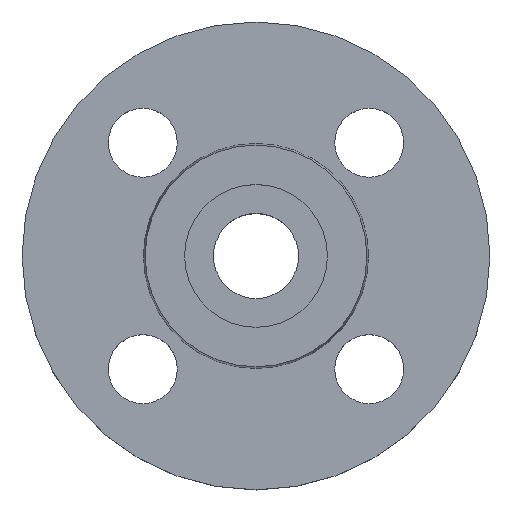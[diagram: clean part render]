
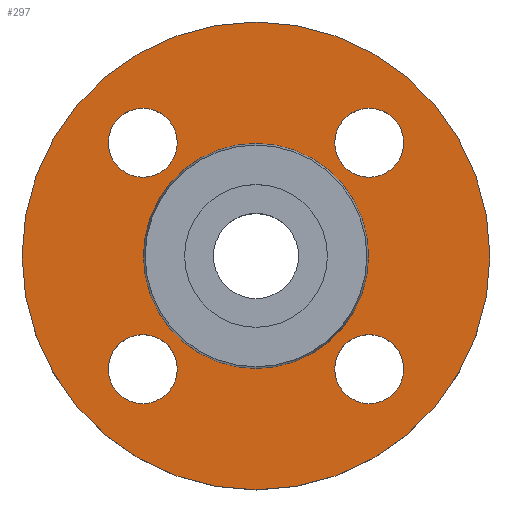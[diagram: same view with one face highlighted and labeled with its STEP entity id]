
A CAD part, top view. The second image highlights one B-rep face of the part: STEP entity #297.
In plain terms, the highlighted planar face has unit normal (0, 0, 1).
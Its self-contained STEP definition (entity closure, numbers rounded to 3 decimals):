
#10 = CIRCLE ( 'NONE', #16, 7. ) ;
#16 = AXIS2_PLACEMENT_3D ( 'NONE', #424, #425, #426 ) ;
#20 = EDGE_CURVE ( 'NONE', #636, #751, #619, .T. ) ;
#28 = CIRCLE ( 'NONE', #29, 7. ) ;
#29 = AXIS2_PLACEMENT_3D ( 'NONE', #448, #460, #461 ) ;
#30 = CIRCLE ( 'NONE', #208, 47.5 ) ;
#37 = CIRCLE ( 'NONE', #275, 22.853 ) ;
#40 = CIRCLE ( 'NONE', #334, 47.5 ) ;
#44 = CARTESIAN_POINT ( 'NONE',  ( -22.853, 0., -2. ) ) ;
#66 = AXIS2_PLACEMENT_3D ( 'NONE', #608, #612, #610 ) ;
#73 = CARTESIAN_POINT ( 'NONE',  ( 29.981, -22.981, -2. ) ) ;
#80 = AXIS2_PLACEMENT_3D ( 'NONE', #353, #605, #349 ) ;
#97 = CARTESIAN_POINT ( 'NONE',  ( -47.5, 0., -2. ) ) ;
#127 = CIRCLE ( 'NONE', #129, 7. ) ;
#129 = AXIS2_PLACEMENT_3D ( 'NONE', #377, #494, #291 ) ;
#140 = AXIS2_PLACEMENT_3D ( 'NONE', #292, #290, #289 ) ;
#149 = AXIS2_PLACEMENT_3D ( 'NONE', #515, #516, #518 ) ;
#153 = CARTESIAN_POINT ( 'NONE',  ( 15.981, -22.981, -2. ) ) ;
#165 = CARTESIAN_POINT ( 'NONE',  ( 15.981, 22.981, -2. ) ) ;
#170 = CIRCLE ( 'NONE', #140, 22.853 ) ;
#174 = DIRECTION ( 'NONE',  ( 1., 0., 0. ) ) ;
#175 = DIRECTION ( 'NONE',  ( 0., 0., -1. ) ) ;
#177 = CARTESIAN_POINT ( 'NONE',  ( -22.981, 22.981, -2. ) ) ;
#194 = CARTESIAN_POINT ( 'NONE',  ( -29.981, 22.981, -2. ) ) ;
#208 = AXIS2_PLACEMENT_3D ( 'NONE', #465, #467, #474 ) ;
#230 = EDGE_CURVE ( 'NONE', #866, #766, #10, .T. ) ;
#235 = CIRCLE ( 'NONE', #80, 7. ) ;
#249 = CIRCLE ( 'NONE', #253, 7. ) ;
#253 = AXIS2_PLACEMENT_3D ( 'NONE', #715, #411, #279 ) ;
#266 = EDGE_CURVE ( 'NONE', #648, #640, #28, .T. ) ;
#271 = EDGE_CURVE ( 'NONE', #855, #645, #30, .T. ) ;
#275 = AXIS2_PLACEMENT_3D ( 'NONE', #530, #531, #532 ) ;
#279 = DIRECTION ( 'NONE',  ( 1., 0., 0. ) ) ;
#286 = CARTESIAN_POINT ( 'NONE',  ( -15.981, -22.981, -2. ) ) ;
#289 = DIRECTION ( 'NONE',  ( -1., 0., 0. ) ) ;
#290 = DIRECTION ( 'NONE',  ( 0., 0., -1. ) ) ;
#291 = DIRECTION ( 'NONE',  ( 1., 0., 0. ) ) ;
#292 = CARTESIAN_POINT ( 'NONE',  ( 0., 0., -2. ) ) ;
#293 = CARTESIAN_POINT ( 'NONE',  ( 47.5, 0., -2. ) ) ;
#297 = ADVANCED_FACE ( 'NONE', ( #503, #883, #505, #506, #509, #510 ), #513, .T. ) ;
#298 = CARTESIAN_POINT ( 'NONE',  ( -29.981, -22.981, -2. ) ) ;
#299 = CARTESIAN_POINT ( 'NONE',  ( -15.981, 22.981, -2. ) ) ;
#301 = CARTESIAN_POINT ( 'NONE',  ( 29.981, 22.981, -2. ) ) ;
#302 = CARTESIAN_POINT ( 'NONE',  ( 22.853, 0., -2. ) ) ;
#309 = ORIENTED_EDGE ( 'NONE', *, *, #20, .T. ) ;
#319 = CIRCLE ( 'NONE', #66, 7. ) ;
#331 = EDGE_CURVE ( 'NONE', #894, #635, #37, .T. ) ;
#334 = AXIS2_PLACEMENT_3D ( 'NONE', #556, #557, #558 ) ;
#349 = DIRECTION ( 'NONE',  ( 1., 0., 0. ) ) ;
#353 = CARTESIAN_POINT ( 'NONE',  ( 22.981, 22.981, -2. ) ) ;
#377 = CARTESIAN_POINT ( 'NONE',  ( -22.981, -22.981, -2. ) ) ;
#384 = ORIENTED_EDGE ( 'NONE', *, *, #745, .T. ) ;
#394 = CIRCLE ( 'NONE', #401, 7. ) ;
#395 = EDGE_CURVE ( 'NONE', #645, #855, #40, .T. ) ;
#401 = AXIS2_PLACEMENT_3D ( 'NONE', #177, #175, #174 ) ;
#411 = DIRECTION ( 'NONE',  ( 0., 0., -1. ) ) ;
#414 = ORIENTED_EDGE ( 'NONE', *, *, #497, .T. ) ;
#424 = CARTESIAN_POINT ( 'NONE',  ( 22.981, -22.981, -2. ) ) ;
#425 = DIRECTION ( 'NONE',  ( 0., 0., -1. ) ) ;
#426 = DIRECTION ( 'NONE',  ( 1., 0., 0. ) ) ;
#448 = CARTESIAN_POINT ( 'NONE',  ( -22.981, -22.981, -2. ) ) ;
#460 = DIRECTION ( 'NONE',  ( 0., 0., -1. ) ) ;
#461 = DIRECTION ( 'NONE',  ( 1., 0., 0. ) ) ;
#465 = CARTESIAN_POINT ( 'NONE',  ( 0., 0., -2. ) ) ;
#467 = DIRECTION ( 'NONE',  ( 0., 0., -1. ) ) ;
#474 = DIRECTION ( 'NONE',  ( -1., 0., 0. ) ) ;
#494 = DIRECTION ( 'NONE',  ( 0., 0., -1. ) ) ;
#497 = EDGE_CURVE ( 'NONE', #639, #726, #319, .T. ) ;
#503 = FACE_BOUND ( 'NONE', #643, .T. ) ;
#505 = FACE_BOUND ( 'NONE', #713, .T. ) ;
#506 = FACE_BOUND ( 'NONE', #653, .T. ) ;
#509 = FACE_BOUND ( 'NONE', #651, .T. ) ;
#510 = FACE_OUTER_BOUND ( 'NONE', #634, .T. ) ;
#513 = PLANE ( 'NONE',  #149 ) ;
#515 = CARTESIAN_POINT ( 'NONE',  ( 22.853, 0., -2. ) ) ;
#516 = DIRECTION ( 'NONE',  ( 0., 0., 1. ) ) ;
#518 = DIRECTION ( 'NONE',  ( 1., 0., 0. ) ) ;
#521 = EDGE_CURVE ( 'NONE', #751, #636, #235, .T. ) ;
#530 = CARTESIAN_POINT ( 'NONE',  ( 0., 0., -2. ) ) ;
#531 = DIRECTION ( 'NONE',  ( 0., 0., -1. ) ) ;
#532 = DIRECTION ( 'NONE',  ( -1., 0., 0. ) ) ;
#556 = CARTESIAN_POINT ( 'NONE',  ( 0., 0., -2. ) ) ;
#557 = DIRECTION ( 'NONE',  ( 0., 0., -1. ) ) ;
#558 = DIRECTION ( 'NONE',  ( -1., 0., 0. ) ) ;
#605 = DIRECTION ( 'NONE',  ( 0., 0., -1. ) ) ;
#608 = CARTESIAN_POINT ( 'NONE',  ( -22.981, 22.981, -2. ) ) ;
#610 = DIRECTION ( 'NONE',  ( 1., 0., 0. ) ) ;
#611 = AXIS2_PLACEMENT_3D ( 'NONE', #877, #878, #879 ) ;
#612 = DIRECTION ( 'NONE',  ( 0., 0., -1. ) ) ;
#619 = CIRCLE ( 'NONE', #611, 7. ) ;
#622 = EDGE_CURVE ( 'NONE', #640, #648, #127, .T. ) ;
#634 = EDGE_LOOP ( 'NONE', ( #776, #777 ) ) ;
#635 = VERTEX_POINT ( 'NONE', #302 ) ;
#636 = VERTEX_POINT ( 'NONE', #301 ) ;
#639 = VERTEX_POINT ( 'NONE', #299 ) ;
#640 = VERTEX_POINT ( 'NONE', #298 ) ;
#643 = EDGE_LOOP ( 'NONE', ( #762, #763 ) ) ;
#645 = VERTEX_POINT ( 'NONE', #293 ) ;
#646 = EDGE_CURVE ( 'NONE', #635, #894, #170, .T. ) ;
#648 = VERTEX_POINT ( 'NONE', #286 ) ;
#651 = EDGE_LOOP ( 'NONE', ( #768, #775 ) ) ;
#653 = EDGE_LOOP ( 'NONE', ( #309, #767 ) ) ;
#713 = EDGE_LOOP ( 'NONE', ( #414, #384 ) ) ;
#715 = CARTESIAN_POINT ( 'NONE',  ( 22.981, -22.981, -2. ) ) ;
#726 = VERTEX_POINT ( 'NONE', #194 ) ;
#729 = EDGE_CURVE ( 'NONE', #766, #866, #249, .T. ) ;
#745 = EDGE_CURVE ( 'NONE', #726, #639, #394, .T. ) ;
#751 = VERTEX_POINT ( 'NONE', #165 ) ;
#762 = ORIENTED_EDGE ( 'NONE', *, *, #230, .T. ) ;
#763 = ORIENTED_EDGE ( 'NONE', *, *, #729, .T. ) ;
#764 = ORIENTED_EDGE ( 'NONE', *, *, #266, .T. ) ;
#765 = ORIENTED_EDGE ( 'NONE', *, *, #622, .T. ) ;
#766 = VERTEX_POINT ( 'NONE', #153 ) ;
#767 = ORIENTED_EDGE ( 'NONE', *, *, #521, .T. ) ;
#768 = ORIENTED_EDGE ( 'NONE', *, *, #331, .T. ) ;
#775 = ORIENTED_EDGE ( 'NONE', *, *, #646, .T. ) ;
#776 = ORIENTED_EDGE ( 'NONE', *, *, #395, .F. ) ;
#777 = ORIENTED_EDGE ( 'NONE', *, *, #271, .F. ) ;
#855 = VERTEX_POINT ( 'NONE', #97 ) ;
#866 = VERTEX_POINT ( 'NONE', #73 ) ;
#876 = EDGE_LOOP ( 'NONE', ( #764, #765 ) ) ;
#877 = CARTESIAN_POINT ( 'NONE',  ( 22.981, 22.981, -2. ) ) ;
#878 = DIRECTION ( 'NONE',  ( 0., 0., -1. ) ) ;
#879 = DIRECTION ( 'NONE',  ( 1., 0., 0. ) ) ;
#883 = FACE_BOUND ( 'NONE', #876, .T. ) ;
#894 = VERTEX_POINT ( 'NONE', #44 ) ;
